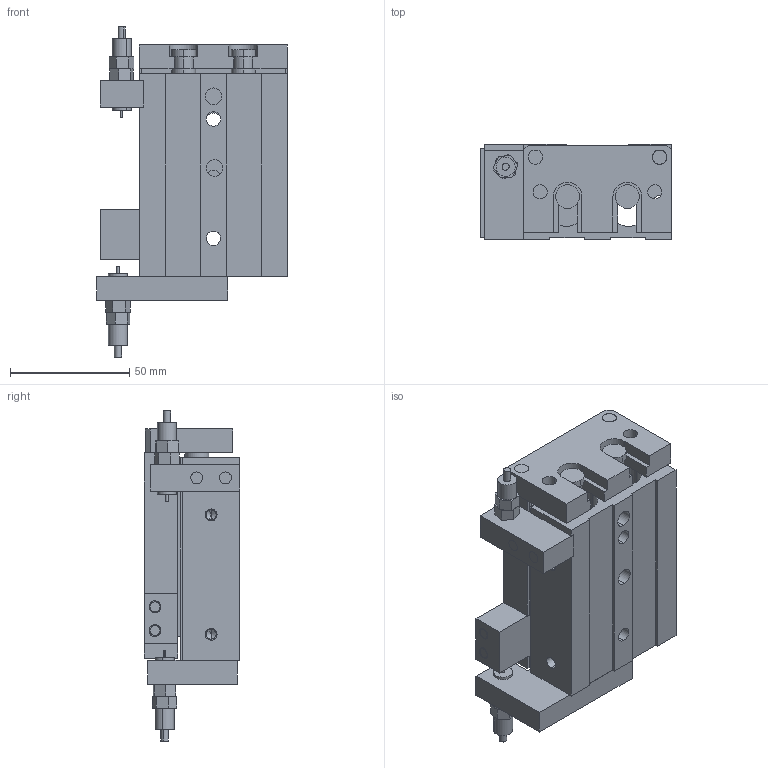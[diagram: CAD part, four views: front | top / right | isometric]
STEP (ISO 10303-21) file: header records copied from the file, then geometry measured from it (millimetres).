
FILE_DESCRIPTION (( 'STEP AP203' ), '1' );
FILE_NAME ('GDX 16-40.STEP', '2013-02-25T13:21:19', ( 'Conseil Régional Haute-Normandie' ), ( 'Conseil Régional Haute-Normandie' ), 'SwSTEP 2.0', 'SolidWorks 2010', '' );
FILE_SCHEMA (( 'CONFIG_CONTROL_DESIGN' ));
Length unit declared in the file: millimetre
Products named in the file (14): Pièce7 GDX16-40_Default; GDX 16-40; Pièce 4 GDX16-10; Pièce12 GDX16-10_Default; Pièce5 GDX16-10_Default; Pièce1 GDX 16-40_Default; Pièce2 GDX16-40_Default; Pièce6 GDX16-40_Default; Pièce11 GDX16-10_Default; Pièce10 GDX16-10_Default; Pièce9 GDX16-10_Default; Pièce8 GDX16-10_Default; Pièce3 GDX16-10_Default; GDX25-10 Pièce14_Default
Assembly tree (27 placements, depth 2):
  GDX 16-40
    Pièce12 GDX16-10_Default  x4
    Pièce11 GDX16-10_Default  x2
    Pièce10 GDX16-10_Default  x8
    Pièce1 GDX 16-40_Default
    Pièce6 GDX16-40_Default
    Pièce5 GDX16-10_Default  x2
    Pièce3 GDX16-10_Default
    GDX25-10 Pièce14_Default  x2
    Pièce9 GDX16-10_Default
    Pièce 4 GDX16-10
    Pièce8 GDX16-10_Default
    Pièce2 GDX16-40_Default  x2
    Pièce7 GDX16-40_Default
Bounding box: 80 x 40 x 138.38 mm (x, y, z)
Volume: 201009.5 mm3; surface area: 85532.4 mm2
Topology: 27 solids, 27 shells, 744 faces, 1872 edges, 1228 vertices
Faces by surface type: plane 397, cylinder 190, bspline 133, cone 24
Entity records: 31188 total; most frequent: CARTESIAN_POINT 14600, ORIENTED_EDGE 3204, DIRECTION 2644, EDGE_CURVE 1602, VERTEX_POINT 1064, VECTOR 1064, LINE 1064, AXIS2_PLACEMENT_3D 790
